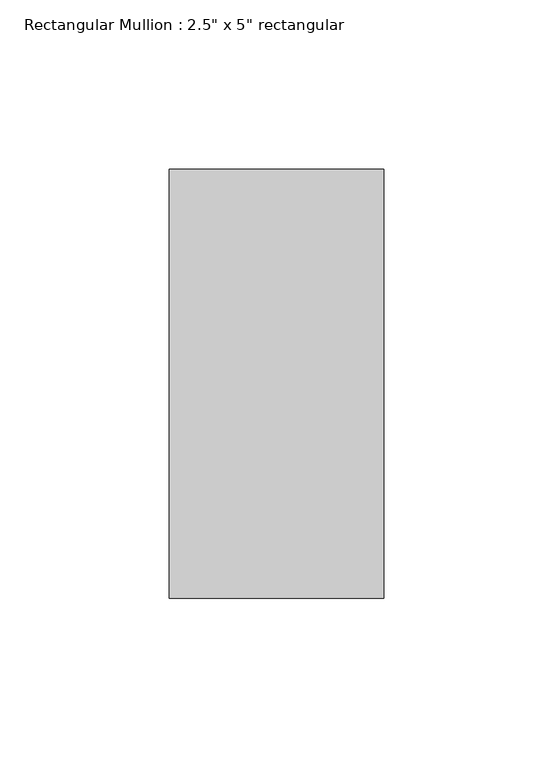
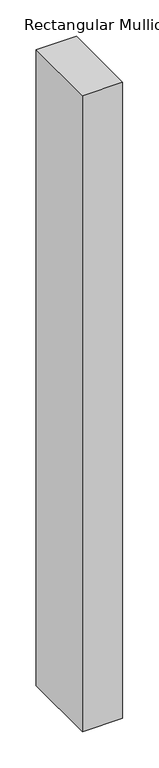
"""IFC4 building model written with IfcOpenShell, lengths in millimetres: member geometry."""

from ifc_helpers import new_model, si_unit, frame, origin, place, context, project, spatial, polyline, outline, extrude, source, transform, mapped, element, save


def member_e70b02d8(model_context):
    return source(origin(), model_context, "Body", "SweptSolid", [
        extrude(outline(polyline([(31.75, 63.5), (31.75, -63.5), (-31.75, -63.5), (-31.75, 63.5), (31.75, 63.5)])), frame((0.0, 0.0, -1064.2599999), z_axis=(0.0, 0.0, 1.0), x_axis=(1.0, 0.0, 0.0)), (0.0, 0.0, 1.0), 1064.2599999),
    ])


if __name__ == "__main__":
    model = new_model("IFC4")
    model_context = context("Model", 3, world=origin())
    ifc_project = project(units=[si_unit("LENGTHUNIT", "METRE", prefix="MILLI")], contexts=[model_context])
    site = spatial("IfcSite", under=ifc_project)
    building = spatial("IfcBuilding", under=site)
    placement = place(None, origin())
    member_shape = member_e70b02d8(model_context)
    element("IfcMember", 1, ObjectType="Rectangular Mullion : 2.5\" x 5\" rectangular", at=placement, inside=building, context=model_context, shape_type="MappedRepresentation", body=[
        mapped(member_shape, transform((0.0, 0.0, 0.0), x_axis=(1.0, 0.0, 0.0), y_axis=(0.0, 1.0, 0.0), z_axis=(0.0, 0.0, 1.0))),
    ])
    save(model, "model.ifc")
